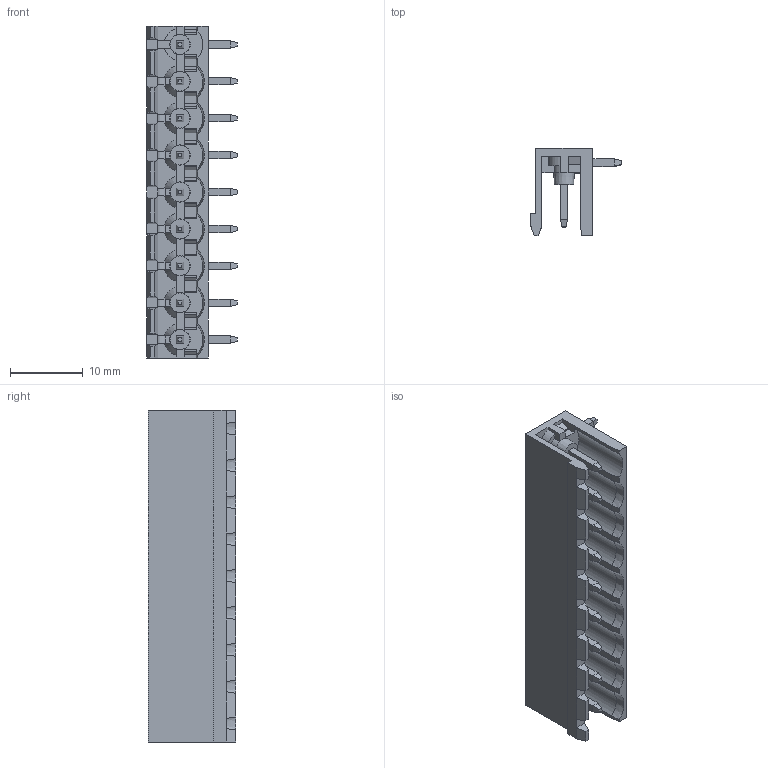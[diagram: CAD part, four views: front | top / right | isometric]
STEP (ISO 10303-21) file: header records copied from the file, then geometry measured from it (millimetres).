
FILE_DESCRIPTION (( 'STEP AP203' ), '1' );
FILE_NAME ('BR8MN1-09.STEP', '2020-03-18T03:20:19', ( '' ), ( '' ), 'SwSTEP 2.0', 'SolidWorks 2019', '' );
FILE_SCHEMA (( 'CONFIG_CONTROL_DESIGN' ));
Length unit declared in the file: millimetre
Products named in the file (1): BR8MN1-09
Bounding box: 12.5 x 12 x 45.72 mm (x, y, z)
Volume: 1747.4 mm3; surface area: 3928.8 mm2
Topology: 1 solids, 1 shells, 766 faces, 1998 edges, 1234 vertices
Faces by surface type: plane 660, cylinder 46, cone 42, sphere 18
Entity records: 22808 total; most frequent: CARTESIAN_POINT 4333, ORIENTED_EDGE 3924, DIRECTION 3593, EDGE_CURVE 1962, VECTOR 1681, LINE 1681, VERTEX_POINT 1216, AXIS2_PLACEMENT_3D 956
